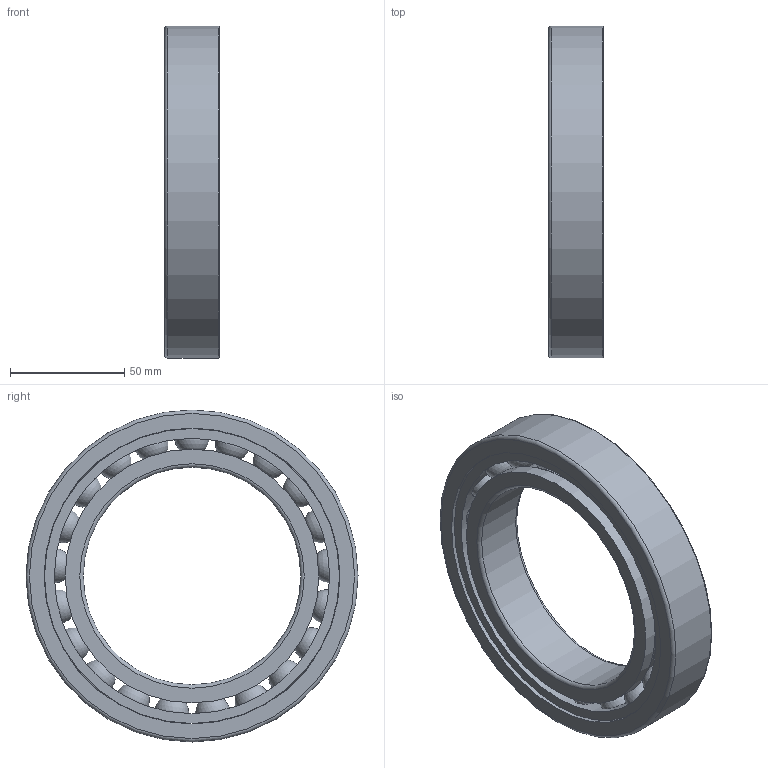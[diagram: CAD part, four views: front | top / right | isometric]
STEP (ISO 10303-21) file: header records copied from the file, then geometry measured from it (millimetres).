
FILE_DESCRIPTION(/* description */ (''),/* implementation_level */ '2;1');
FILE_NAME(/* name */ 'SM_6019_TA.step',/* time_stamp */ '2013-03-11T11:34:57+01:00',/* author */ ('Marian'),/* organization */ ('GMN'),/* preprocessor_version */ 'ST-DEVELOPER v11',/* originating_system */ 'SIEMENS UGS NX 6.0',/* authorisation */ '');
FILE_SCHEMA (('CONFIG_CONTROL_DESIGN'));
Length unit declared in the file: millimetre
Products named in the file (1): SM_6019_TA
Bounding box: 24 x 145 x 145 mm (x, y, z)
Volume: 169463.5 mm3; surface area: 78532.1 mm2
Topology: 24 solids, 24 shells, 62 faces, 160 edges, 104 vertices
Faces by surface type: cylinder 28, sphere 21, torus 6, plane 6, cone 1
Full cylindrical faces by diameter (mm): 15.281 x21, 95 x1, 110.8 x2, 120.301 x1, 128.8 x1, 129.2 x1, 145 x1
Entity records: 2052 total; most frequent: CARTESIAN_POINT 922, DIRECTION 166, FACE_BOUND 145, EDGE_LOOP 124, ORIENTED_EDGE 124, VERTEX_POINT 83, AXIS2_PLACEMENT_3D 83, EDGE_CURVE 62
